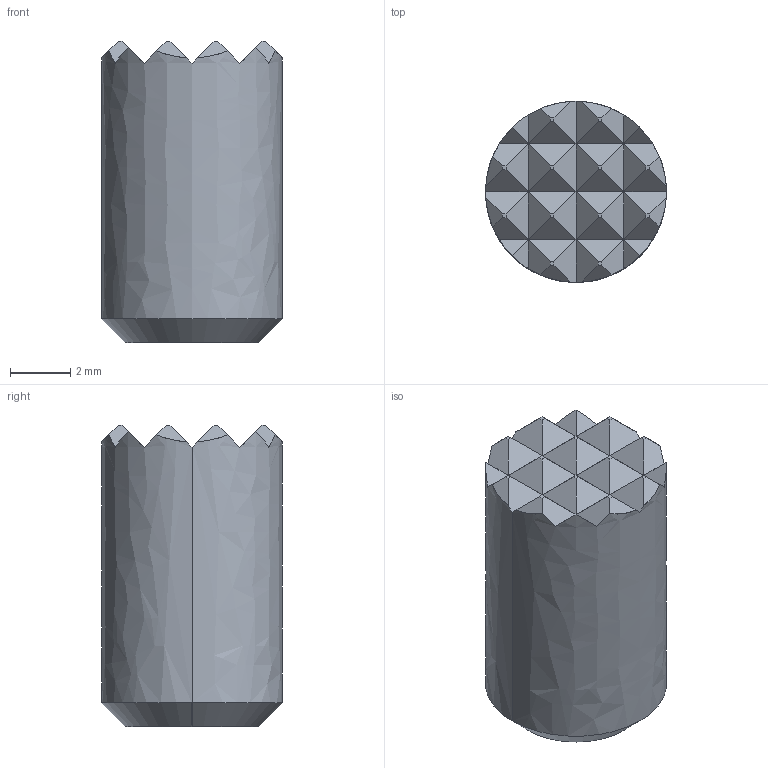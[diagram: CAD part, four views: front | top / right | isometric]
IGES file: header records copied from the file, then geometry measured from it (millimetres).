
Start section: SolidWorks IGES file using analytic representation for surfaces
Global section: file name: X:\11_SW2020-Inv2020\00_全2021-11新製品まで\h\HS-060\hs-060.IGS; native system: SolidWorks 2020; preprocessor: SolidWorks 2020; author: ImaoCorp; date: 211026.101554; units: millimetre
Bounding box: 6 x 6 x 10 mm (x, y, z)
Surface area: 285 mm2 (no closed solid volume)
Topology: 0 solids, 0 shells, 76 faces, 438 edges, 438 vertices
Faces by surface type: bspline 70, revolution 6
